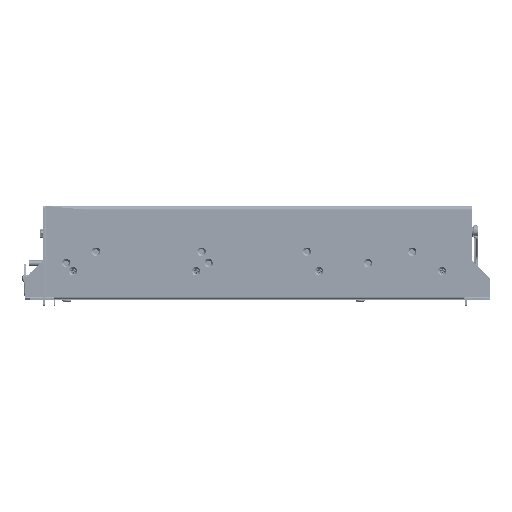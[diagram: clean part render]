
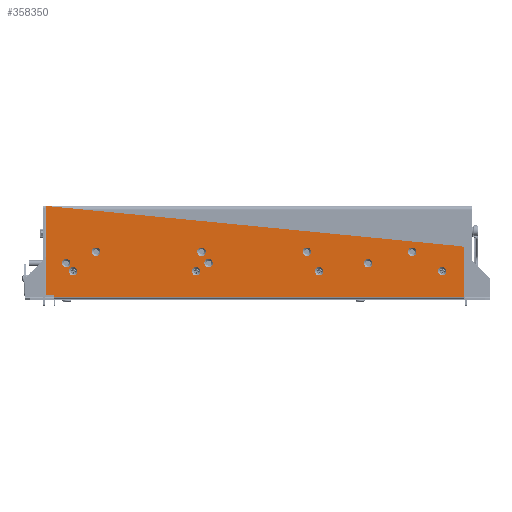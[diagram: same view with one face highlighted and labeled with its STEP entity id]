
A CAD part, front view. The second image highlights one B-rep face of the part: STEP entity #358350.
In plain terms, the highlighted planar face has unit normal (0, -1, 0) as drawn and (1, 0, 0) by its records, which use the part's own axes.
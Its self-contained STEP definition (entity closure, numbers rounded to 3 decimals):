
#14827=CIRCLE('',#378271,2.);
#14838=CIRCLE('',#378287,3.75);
#14840=CIRCLE('',#378290,3.75);
#14842=CIRCLE('',#378293,3.75);
#14844=CIRCLE('',#378296,3.75);
#14846=CIRCLE('',#378299,3.75);
#14848=CIRCLE('',#378302,3.75);
#14850=CIRCLE('',#378305,3.75);
#14852=CIRCLE('',#378308,3.75);
#14854=CIRCLE('',#378311,3.75);
#14856=CIRCLE('',#378314,3.75);
#14858=CIRCLE('',#378317,3.75);
#86103=ORIENTED_EDGE('',*,*,#127625,.F.);
#86104=ORIENTED_EDGE('',*,*,#127593,.T.);
#86105=ORIENTED_EDGE('',*,*,#127626,.F.);
#86106=ORIENTED_EDGE('',*,*,#127627,.F.);
#86107=ORIENTED_EDGE('',*,*,#127623,.F.);
#86108=ORIENTED_EDGE('',*,*,#127628,.F.);
#86109=ORIENTED_EDGE('',*,*,#127517,.F.);
#86110=ORIENTED_EDGE('',*,*,#127559,.F.);
#86111=ORIENTED_EDGE('',*,*,#127557,.F.);
#86112=ORIENTED_EDGE('',*,*,#127555,.F.);
#86113=ORIENTED_EDGE('',*,*,#127553,.F.);
#86114=ORIENTED_EDGE('',*,*,#127551,.F.);
#86115=ORIENTED_EDGE('',*,*,#127549,.F.);
#86116=ORIENTED_EDGE('',*,*,#127547,.F.);
#86117=ORIENTED_EDGE('',*,*,#127545,.F.);
#86118=ORIENTED_EDGE('',*,*,#127543,.F.);
#86119=ORIENTED_EDGE('',*,*,#127541,.F.);
#86120=ORIENTED_EDGE('',*,*,#127539,.F.);
#127517=EDGE_CURVE('',#154824,#154825,#14827,.T.);
#127539=EDGE_CURVE('',#154845,#154845,#14838,.T.);
#127541=EDGE_CURVE('',#154847,#154847,#14840,.T.);
#127543=EDGE_CURVE('',#154849,#154849,#14842,.T.);
#127545=EDGE_CURVE('',#154851,#154851,#14844,.T.);
#127547=EDGE_CURVE('',#154853,#154853,#14846,.T.);
#127549=EDGE_CURVE('',#154855,#154855,#14848,.T.);
#127551=EDGE_CURVE('',#154857,#154857,#14850,.T.);
#127553=EDGE_CURVE('',#154859,#154859,#14852,.T.);
#127555=EDGE_CURVE('',#154861,#154861,#14854,.T.);
#127557=EDGE_CURVE('',#154863,#154863,#14856,.T.);
#127559=EDGE_CURVE('',#154865,#154865,#14858,.T.);
#127593=EDGE_CURVE('',#154890,#154891,#183331,.T.);
#127623=EDGE_CURVE('',#154906,#154907,#183352,.T.);
#127625=EDGE_CURVE('',#154890,#154824,#183353,.T.);
#127626=EDGE_CURVE('',#154908,#154891,#183354,.T.);
#127627=EDGE_CURVE('',#154907,#154908,#183355,.T.);
#127628=EDGE_CURVE('',#154825,#154906,#183356,.T.);
#154824=VERTEX_POINT('',#582130);
#154825=VERTEX_POINT('',#582131);
#154845=VERTEX_POINT('',#582181);
#154847=VERTEX_POINT('',#582186);
#154849=VERTEX_POINT('',#582191);
#154851=VERTEX_POINT('',#582196);
#154853=VERTEX_POINT('',#582201);
#154855=VERTEX_POINT('',#582206);
#154857=VERTEX_POINT('',#582211);
#154859=VERTEX_POINT('',#582216);
#154861=VERTEX_POINT('',#582221);
#154863=VERTEX_POINT('',#582226);
#154865=VERTEX_POINT('',#582231);
#154890=VERTEX_POINT('',#582301);
#154891=VERTEX_POINT('',#582302);
#154906=VERTEX_POINT('',#582385);
#154907=VERTEX_POINT('',#582387);
#154908=VERTEX_POINT('',#582392);
#183331=LINE('',#582300,#211539);
#183352=LINE('',#582386,#211560);
#183353=LINE('',#582390,#211561);
#183354=LINE('',#582391,#211562);
#183355=LINE('',#582393,#211563);
#183356=LINE('',#582394,#211564);
#211539=VECTOR('',#443318,1000.);
#211560=VECTOR('',#443371,1000.);
#211561=VECTOR('',#443376,1000.);
#211562=VECTOR('',#443377,1000.);
#211563=VECTOR('',#443378,1000.);
#211564=VECTOR('',#443379,1000.);
#232119=EDGE_LOOP('',(#86103,#86104,#86105,#86106,#86107,#86108,#86109));
#232120=EDGE_LOOP('',(#86110));
#232121=EDGE_LOOP('',(#86111));
#232122=EDGE_LOOP('',(#86112));
#232123=EDGE_LOOP('',(#86113));
#232124=EDGE_LOOP('',(#86114));
#232125=EDGE_LOOP('',(#86115));
#232126=EDGE_LOOP('',(#86116));
#232127=EDGE_LOOP('',(#86117));
#232128=EDGE_LOOP('',(#86118));
#232129=EDGE_LOOP('',(#86119));
#232130=EDGE_LOOP('',(#86120));
#252554=FACE_BOUND('',#232119,.T.);
#252555=FACE_BOUND('',#232120,.T.);
#252556=FACE_BOUND('',#232121,.T.);
#252557=FACE_BOUND('',#232122,.T.);
#252558=FACE_BOUND('',#232123,.T.);
#252559=FACE_BOUND('',#232124,.T.);
#252560=FACE_BOUND('',#232125,.T.);
#252561=FACE_BOUND('',#232126,.T.);
#252562=FACE_BOUND('',#232127,.T.);
#252563=FACE_BOUND('',#232128,.T.);
#252564=FACE_BOUND('',#232129,.T.);
#252565=FACE_BOUND('',#232130,.T.);
#263507=PLANE('',#378356);
#358350=ADVANCED_FACE('',(#252554,#252555,#252556,#252557,#252558,#252559,
#252560,#252561,#252562,#252563,#252564,#252565),#263507,.T.);
#378271=AXIS2_PLACEMENT_3D('',#582129,#443149,#443150);
#378287=AXIS2_PLACEMENT_3D('',#582180,#443191,#443192);
#378290=AXIS2_PLACEMENT_3D('',#582185,#443197,#443198);
#378293=AXIS2_PLACEMENT_3D('',#582190,#443203,#443204);
#378296=AXIS2_PLACEMENT_3D('',#582195,#443209,#443210);
#378299=AXIS2_PLACEMENT_3D('',#582200,#443215,#443216);
#378302=AXIS2_PLACEMENT_3D('',#582205,#443221,#443222);
#378305=AXIS2_PLACEMENT_3D('',#582210,#443227,#443228);
#378308=AXIS2_PLACEMENT_3D('',#582215,#443233,#443234);
#378311=AXIS2_PLACEMENT_3D('',#582220,#443239,#443240);
#378314=AXIS2_PLACEMENT_3D('',#582225,#443245,#443246);
#378317=AXIS2_PLACEMENT_3D('',#582230,#443251,#443252);
#378356=AXIS2_PLACEMENT_3D('',#582389,#443374,#443375);
#443149=DIRECTION('',(-1.,0.,0.));
#443150=DIRECTION('',(0.,0.,-1.));
#443191=DIRECTION('',(1.,0.,0.));
#443192=DIRECTION('',(0.,0.,-1.));
#443197=DIRECTION('',(1.,0.,0.));
#443198=DIRECTION('',(0.,0.,-1.));
#443203=DIRECTION('',(1.,0.,0.));
#443204=DIRECTION('',(0.,0.,-1.));
#443209=DIRECTION('',(1.,0.,0.));
#443210=DIRECTION('',(0.,0.,-1.));
#443215=DIRECTION('',(1.,0.,0.));
#443216=DIRECTION('',(0.,0.,-1.));
#443221=DIRECTION('',(1.,0.,0.));
#443222=DIRECTION('',(0.,0.,-1.));
#443227=DIRECTION('',(1.,0.,0.));
#443228=DIRECTION('',(0.,0.,-1.));
#443233=DIRECTION('',(1.,0.,0.));
#443234=DIRECTION('',(0.,0.,-1.));
#443239=DIRECTION('',(1.,0.,0.));
#443240=DIRECTION('',(0.,0.,-1.));
#443245=DIRECTION('',(1.,0.,0.));
#443246=DIRECTION('',(0.,0.,-1.));
#443251=DIRECTION('',(1.,0.,0.));
#443252=DIRECTION('',(0.,0.,-1.));
#443318=DIRECTION('',(0.,0.,-1.));
#443371=DIRECTION('',(0.,-1.,0.));
#443374=DIRECTION('',(1.,0.,0.));
#443375=DIRECTION('',(0.,0.,1.));
#443376=DIRECTION('',(0.,0.995,-0.097));
#443377=DIRECTION('',(0.,-1.,0.));
#443378=DIRECTION('',(0.,0.,1.));
#443379=DIRECTION('',(0.,0.,-1.));
#582129=CARTESIAN_POINT('',(223.5,178.,44.339));
#582130=CARTESIAN_POINT('',(223.5,178.193,46.33));
#582131=CARTESIAN_POINT('',(223.5,180.,44.339));
#582180=CARTESIAN_POINT('',(223.5,-142.75,41.5));
#582181=CARTESIAN_POINT('',(223.5,-142.75,37.75));
#582185=CARTESIAN_POINT('',(223.5,-50.25,41.5));
#582186=CARTESIAN_POINT('',(223.5,-50.25,37.75));
#582190=CARTESIAN_POINT('',(223.5,42.25,41.5));
#582191=CARTESIAN_POINT('',(223.5,42.25,37.75));
#582195=CARTESIAN_POINT('',(223.5,134.75,41.5));
#582196=CARTESIAN_POINT('',(223.5,134.75,37.75));
#582200=CARTESIAN_POINT('',(223.5,-169.,31.5));
#582201=CARTESIAN_POINT('',(223.5,-169.,27.75));
#582205=CARTESIAN_POINT('',(223.5,-44.,31.5));
#582206=CARTESIAN_POINT('',(223.5,-44.,27.75));
#582210=CARTESIAN_POINT('',(223.5,96.,31.5));
#582211=CARTESIAN_POINT('',(223.5,96.,27.75));
#582215=CARTESIAN_POINT('',(223.5,161.034,24.5));
#582216=CARTESIAN_POINT('',(223.5,161.034,20.75));
#582220=CARTESIAN_POINT('',(223.5,53.034,24.5));
#582221=CARTESIAN_POINT('',(223.5,53.034,20.75));
#582225=CARTESIAN_POINT('',(223.5,-55.,24.5));
#582226=CARTESIAN_POINT('',(223.5,-55.,20.75));
#582230=CARTESIAN_POINT('',(223.5,-162.966,24.5));
#582231=CARTESIAN_POINT('',(223.5,-162.966,20.75));
#582300=CARTESIAN_POINT('',(223.5,-186.5,81.757));
#582301=CARTESIAN_POINT('',(223.5,-186.5,81.757));
#582302=CARTESIAN_POINT('',(223.5,-186.5,3.757));
#582385=CARTESIAN_POINT('',(223.5,180.,1.7));
#582386=CARTESIAN_POINT('',(223.5,180.,1.7));
#582387=CARTESIAN_POINT('',(223.5,-180.,1.7));
#582389=CARTESIAN_POINT('',(223.5,180.,1.154));
#582390=CARTESIAN_POINT('',(223.5,180.,46.154));
#582391=CARTESIAN_POINT('',(223.5,-180.,3.757));
#582392=CARTESIAN_POINT('',(223.5,-180.,3.757));
#582393=CARTESIAN_POINT('',(223.5,-180.,1.5));
#582394=CARTESIAN_POINT('',(223.5,180.,1.5));
